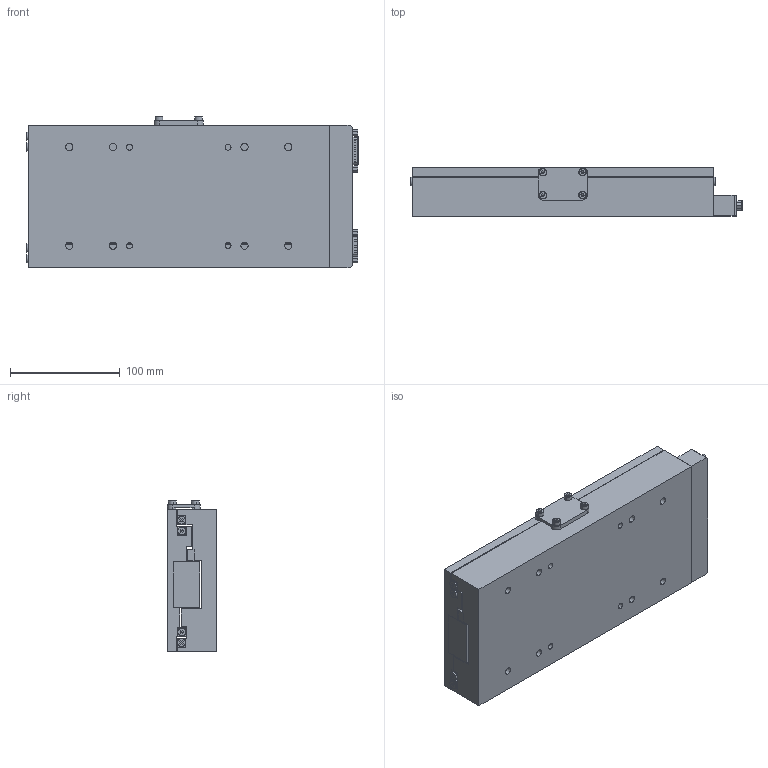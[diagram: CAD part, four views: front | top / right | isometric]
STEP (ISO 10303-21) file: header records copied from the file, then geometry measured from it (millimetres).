
FILE_DESCRIPTION (( 'STEP AP214' ), '1' );
FILE_NAME ('NPS-160-EXPORT.STEP', '2025-09-10T19:30:58', ( 'lab' ), ( '' ), 'SwSTEP 2.0', 'SolidWorks 2018', '' );
FILE_SCHEMA (( 'AUTOMOTIVE_DESIGN' ));
Length unit declared in the file: millimetre
Products named in the file (8): NPS-160-EXPORT; 1000001_file_export0; 1000007_file_export12; 1000005_file_export11; 1000003_file_export8; 1000002_file_export3; 1000004_file_export1; 1000006_file_export2
Assembly tree (13 placements, depth 2):
  NPS-160-EXPORT
    1000001_file_export0
    1000002_file_export3
    1000003_file_export8  x4
    1000004_file_export1
    1000005_file_export11  x4
    1000006_file_export2
    1000007_file_export12
Bounding box: 303.2 x 45 x 138 mm (x, y, z)
Volume: 1557234.8 mm3; surface area: 311585.2 mm2
Topology: 72 solids, 72 shells, 1439 faces, 3319 edges, 2053 vertices
Faces by surface type: plane 865, cylinder 318, bspline 170, cone 86
Entity records: 47915 total; most frequent: CARTESIAN_POINT 12485, ORIENTED_EDGE 5974, DIRECTION 5837, EDGE_CURVE 2987, AXIS2_PLACEMENT_3D 1956, VECTOR 1925, LINE 1925, VERTEX_POINT 1876
